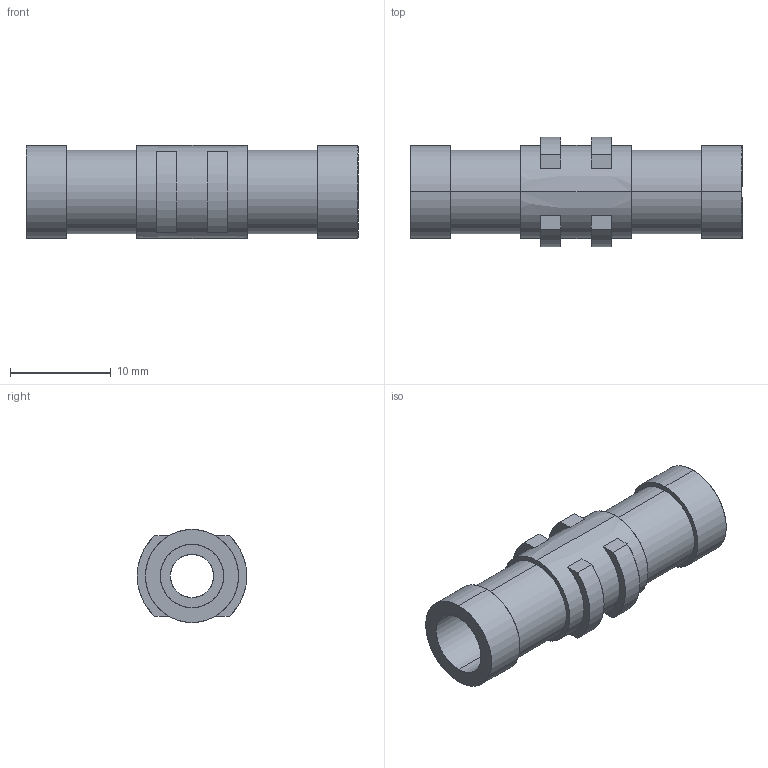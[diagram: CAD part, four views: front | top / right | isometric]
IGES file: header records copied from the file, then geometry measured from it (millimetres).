
Start section: SolidWorks IGES file using analytic representation for surfaces
Bounding box: 33 x 10.9 x 9.25 mm (x, y, z)
Surface area: 1680.2 mm2 (no closed solid volume)
Topology: 0 solids, 0 shells, 44 faces, 848 edges, 848 vertices
Faces by surface type: bspline 24, revolution 20
